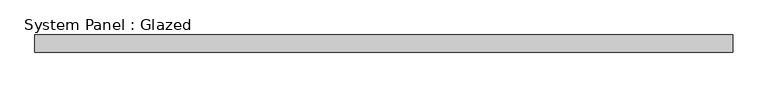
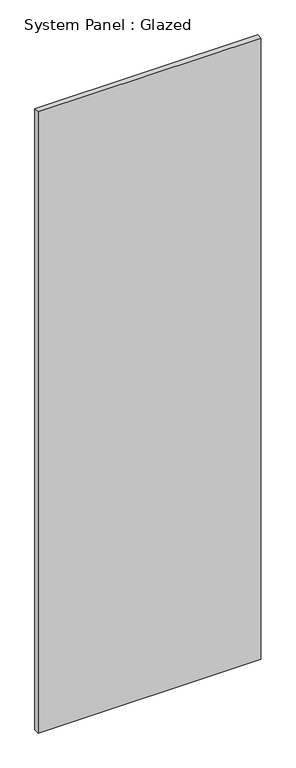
"""IFC4 building model written with IfcOpenShell, lengths in millimetres: plate geometry, System Panel : Glazed."""

from ifc_helpers import new_model, si_unit, origin, origin_with_axes, place, context, project, spatial, polyline, outline, extrude, source, transform, mapped, element, save


def system_panel_glazed_daea1d03(model_context):
    return source(origin(), model_context, "Body", "SweptSolid", [
        extrude(outline(polyline([(500.0, -49.5), (-500.0, -49.5), (-500.0, -24.5), (500.0, -24.5), (500.0, -49.5)])), origin_with_axes(), (0.0, 0.0, 1.0), 2950.0),
    ])


if __name__ == "__main__":
    model = new_model("IFC4")
    model_context = context("Model", 3, world=origin())
    ifc_project = project(units=[si_unit("LENGTHUNIT", "METRE", prefix="MILLI")], contexts=[model_context])
    site = spatial("IfcSite", under=ifc_project)
    building = spatial("IfcBuilding", under=site)
    placement = place(None, origin())
    system_panel_glazed_shape = system_panel_glazed_daea1d03(model_context)
    element("IfcPlate", 1, ObjectType="System Panel : Glazed", at=placement, inside=building, context=model_context, shape_type="MappedRepresentation", body=[
        mapped(system_panel_glazed_shape, transform((0.0, 0.0, 0.0), x_axis=(1.0, 0.0, 0.0), y_axis=(0.0, 1.0, 0.0), z_axis=(0.0, 0.0, 1.0))),
    ])
    save(model, "model.ifc")
